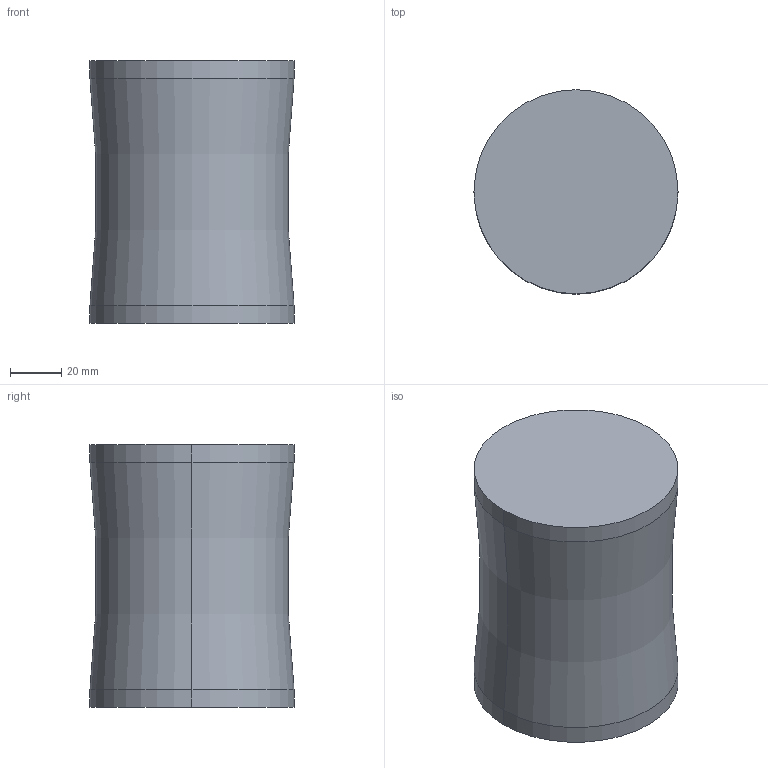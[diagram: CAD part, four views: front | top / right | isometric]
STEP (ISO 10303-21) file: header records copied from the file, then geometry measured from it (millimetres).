
FILE_DESCRIPTION(/* description */ (''),/* implementation_level */ '2;1');
FILE_NAME(/* name */ '3d_ex80100_06513_r00.stp',/* time_stamp */ '2011-01-10T14:15:38+09:00',/* author */ ('MISUMI'),/* organization */ (''),/* preprocessor_version */ 'ST-DEVELOPER v11',/* originating_system */ 'UGS - NX 5.0',/* authorisation */ '');
FILE_SCHEMA (('CONFIG_CONTROL_DESIGN'));
Length unit declared in the file: millimetre
Products named in the file (1): 3d_ex80100_06513_r00
Bounding box: 80 x 80 x 103 mm (x, y, z)
Volume: 481336.6 mm3; surface area: 35052.4 mm2
Topology: 1 solids, 1 shells, 8 faces, 14 edges, 8 vertices
Faces by surface type: cylinder 4, plane 2, torus 2
Entity records: 282 total; most frequent: DIRECTION 42, CARTESIAN_POINT 31, ORIENTED_EDGE 28, AXIS2_PLACEMENT_3D 19, EDGE_CURVE 14, CIRCLE 10, ADVANCED_FACE 8, FACE_OUTER_BOUND 8
